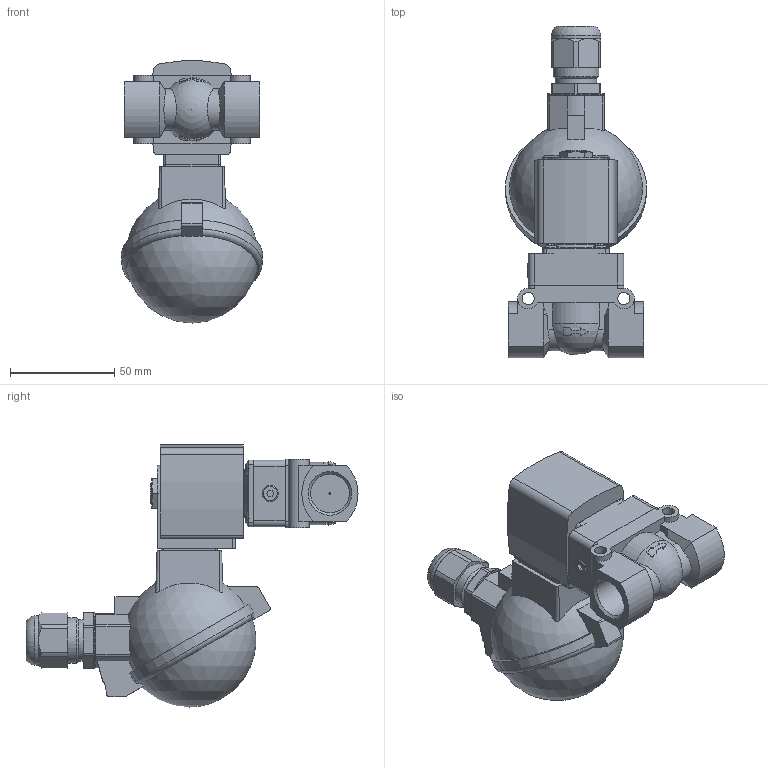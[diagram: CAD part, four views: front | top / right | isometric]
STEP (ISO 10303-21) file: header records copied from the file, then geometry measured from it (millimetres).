
FILE_DESCRIPTION(/* description */ ('STEP AP214'),/* implementation_level */ '2;1');
FILE_NAME(/* name */ '5404-349305-Servo-assisted_2_2_way_piston_valve',/* time_stamp */ '2024-02-29T12:15:53+01:00',/* author */ ('License CC BY-ND 4.0'),/* organization */ ('CADENAS'),/* preprocessor_version */ 'ST-DEVELOPER v19.3',/* originating_system */ 'PARTsolutions',/* authorisation */ ' ');
FILE_SCHEMA (('AUTOMOTIVE_DESIGN {1 0 10303 214 3 1 1}'));
Length unit declared in the file: millimetre
Products named in the file (4): 5404-349305-Servo-assisted 2/2 way piston valve; 5282g-8412MS000-2/2-Wege-Magnetventil_Gehaeuse; 5282d-12MSBU3J-2/2-Wege-Magnetventil_Deckel; AC10ex-6ATEXKLK_MB05Plan-Coil
Assembly tree (3 placements, depth 2):
  5404-349305-Servo-assisted 2/2 way piston valve
    5282g-8412MS000-2/2-Wege-Magnetventil_Gehaeuse
    5282d-12MSBU3J-2/2-Wege-Magnetventil_Deckel
    AC10ex-6ATEXKLK_MB05Plan-Coil
Bounding box: 67.86 x 159.6 x 126.03 mm (x, y, z)
Volume: 318747.8 mm3; surface area: 52894.9 mm2
Topology: 3 solids, 3 shells, 294 faces, 754 edges, 492 vertices
Faces by surface type: plane 165, cylinder 85, cone 29, torus 8, sphere 7
Full cylindrical faces by diameter (mm): 1 x1, 3.242 x1, 4 x4, 5.8 x2, 7.5 x4, 7.6 x4, 7.8 x1, 9.74 x1, 14 x1, 17.294 x1, 18.631 x2, 20 x1, 21 x1, 22 x1, 23 x1, 24 x1, 27 x1
Entity records: 9827 total; most frequent: CARTESIAN_POINT 1688, DIRECTION 1530, ORIENTED_EDGE 1386, EDGE_CURVE 693, AXIS2_PLACEMENT_3D 595, VERTEX_POINT 475, EDGE_LOOP 370, FACE_BOUND 370
